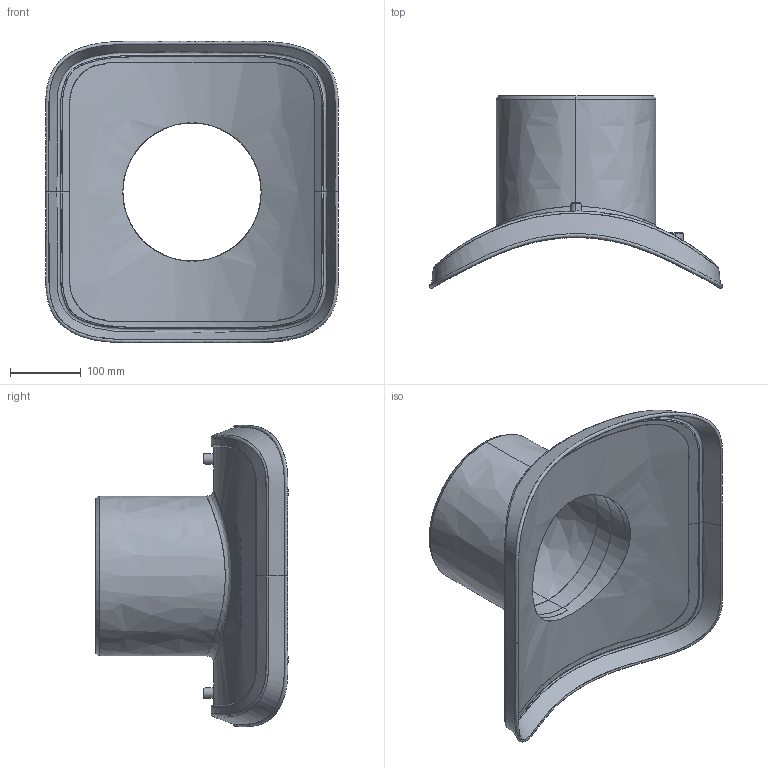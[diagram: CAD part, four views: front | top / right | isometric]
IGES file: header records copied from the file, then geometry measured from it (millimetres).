
Start section:  PTC IGES file: asa-vl_d560.igs
Global section: file name: asa-vl_d560.igs; native system: Pro/ENGINEER by Parametric Technology Corporation; preprocessor: 2011490; author: mtunjic; organization: Unknown; date: 20130724.084134; units: millimetre
Bounding box: 413.09 x 270.7 x 425.06 mm (x, y, z)
Surface area: 606957.4 mm2 (no closed solid volume)
Topology: 0 solids, 0 shells, 207 faces, 1038 edges, 1038 vertices
Faces by surface type: bspline 207
